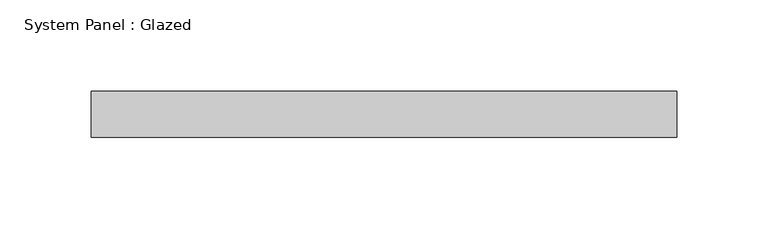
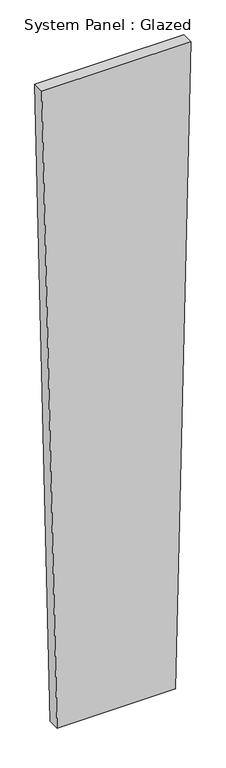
"""IFC4 building model written with IfcOpenShell, lengths in millimetres: plate geometry, System Panel : Glazed."""

import ifcopenshell
import ifcopenshell.guid

model = None  # the IFC model being written
_history = None  # IfcOwnerHistory: only IFC2X3 demands one
_inside = {}  # id of a spatial element -> (the spatial element, [elements in it])
_under = {}  # id of a project, library or spatial element -> (it, [spatial elements below it])
_declared = {}  # id of a project -> (the project, [libraries it declares])
_typed = {}  # id of a type object -> (the type object, [elements of that type])
_made_of = {}  # id of a material, layer set ... -> (it, [elements and type objects made of it])


def new_model(schema):
    """Start an empty IFC model of exactly this schema.

    Asked for "IFC4X3", IfcOpenShell would pick the latest addendum, in which some entities
    have other attributes; the version numbers below select the first issue.
    IFC2X3 requires an IfcOwnerHistory on every rooted entity: one is made here for all.
    """
    global model, _history
    if schema == "IFC4X3":
        model = ifcopenshell.file(schema_version=(4, 3, 0, 0))
    else:
        model = ifcopenshell.file(schema=schema)
    _inside.clear()
    _under.clear()
    _declared.clear()
    _typed.clear()
    _made_of.clear()
    _history = None
    if model.schema == "IFC2X3":
        org = make("IfcOrganization", Name="unknown")
        user = make(
            "IfcPersonAndOrganization",
            ThePerson=make("IfcPerson", FamilyName="unknown"),
            TheOrganization=org,
        )
        app = make(
            "IfcApplication",
            ApplicationDeveloper=org,
            Version="unknown",
            ApplicationFullName="unknown",
            ApplicationIdentifier="unknown",
        )
        _history = make(
            "IfcOwnerHistory",
            OwningUser=user,
            OwningApplication=app,
            ChangeAction="ADDED",
            CreationDate=0,
        )
    return model


def make(cls, **values):
    """One entity of the class cls with the attributes given. An attribute that is None is left unset."""
    return model.create_entity(
        cls, **{name: value for name, value in values.items() if value is not None}
    )


def rooted(cls, **values):
    """An entity with a GlobalId (a new one), such as an element, a storey or a relation."""
    return make(cls, GlobalId=ifcopenshell.guid.new(), OwnerHistory=_history, **values)


def si_unit(unit_type, name, prefix=None):
    """IfcSIUnit, for example si_unit("LENGTHUNIT", "METRE", prefix="MILLI")."""
    return make("IfcSIUnit", UnitType=unit_type, Prefix=prefix, Name=name)


def assignment(units):
    """IfcUnitAssignment: the units of a project."""
    return None if units is None else make("IfcUnitAssignment", Units=units)


def point(xyz):
    """IfcCartesianPoint."""
    return None if xyz is None else make("IfcCartesianPoint", Coordinates=xyz)


def direction(xyz):
    """IfcDirection."""
    return None if xyz is None else make("IfcDirection", DirectionRatios=xyz)


def frame(location, z_axis=None, x_axis=None):
    """IfcAxis2Placement3D, a coordinate frame: its origin and axes. An axis left out is left unset."""
    return make(
        "IfcAxis2Placement3D",
        Location=point(location),
        Axis=direction(z_axis),
        RefDirection=direction(x_axis),
    )


def origin():
    """The frame at (0, 0, 0) with its axes left unset."""
    return frame((0.0, 0.0, 0.0))


def place(relative_to, where):
    """IfcLocalPlacement: puts the frame where relative to a parent placement (None: the world)."""
    return make(
        "IfcLocalPlacement", PlacementRelTo=relative_to, RelativePlacement=where
    )


def context(
    kind, dimensions, precision=None, world=None, true_north=None, identifier=None
):
    """IfcGeometricRepresentationContext, for example the 3D "Model" context."""
    return make(
        "IfcGeometricRepresentationContext",
        ContextIdentifier=identifier,
        ContextType=kind,
        CoordinateSpaceDimension=dimensions,
        Precision=precision,
        WorldCoordinateSystem=world,
        TrueNorth=true_north,
    )


def project(units=None, contexts=None):
    """IfcProject with its units and contexts."""
    return rooted(
        "IfcProject",
        Name="project",
        RepresentationContexts=contexts,
        UnitsInContext=assignment(units),
    )


def spatial(cls, under=None, at=None, **own):
    """A site, building, storey or space (cls), placed at a placement, below another one or the project."""
    s = rooted(cls, ObjectPlacement=at, **own)
    if under is not None:
        _under.setdefault(under.id(), (under, []))[1].append(s)
    return s


def polyline(points):
    """IfcPolyline through the points."""
    return make("IfcPolyline", Points=[point(p) for p in points])


def outline(outer, holes=None, kind="AREA"):
    """IfcArbitraryClosedProfileDef: a profile drawn as a closed curve; with holes, ...WithVoids."""
    if holes is None:
        return make("IfcArbitraryClosedProfileDef", ProfileType=kind, OuterCurve=outer)
    return make(
        "IfcArbitraryProfileDefWithVoids",
        ProfileType=kind,
        OuterCurve=outer,
        InnerCurves=holes,
    )


def extrude(swept, where, along, depth):
    """IfcExtrudedAreaSolid: the profile swept, set in the frame where, extruded along a direction by depth."""
    return make(
        "IfcExtrudedAreaSolid",
        SweptArea=swept,
        Position=where,
        ExtrudedDirection=direction(along),
        Depth=depth,
    )


def shape(context_of_items, identifier, shape_type, items):
    """IfcShapeRepresentation: the items that make up one representation, for example the "Body"."""
    return make(
        "IfcShapeRepresentation",
        ContextOfItems=context_of_items,
        RepresentationIdentifier=identifier,
        RepresentationType=shape_type,
        Items=items,
    )


def source(mapping_origin, context_of_items, identifier, shape_type, items):
    """IfcRepresentationMap: a shape defined once, which mapped items show again and again."""
    return make(
        "IfcRepresentationMap",
        MappingOrigin=mapping_origin,
        MappedRepresentation=shape(context_of_items, identifier, shape_type, items),
    )


def transform(
    local_origin,
    x_axis=None,
    y_axis=None,
    z_axis=None,
    scale=None,
    scale2=None,
    scale3=None,
    uniform=True,
):
    """IfcCartesianTransformationOperator3D, or its non-uniform kind. x_axis, y_axis, z_axis: its Axis1, 2, 3."""
    if uniform:
        return make(
            "IfcCartesianTransformationOperator3D",
            Axis1=direction(x_axis),
            Axis2=direction(y_axis),
            LocalOrigin=point(local_origin),
            Scale=scale,
            Axis3=direction(z_axis),
        )
    return make(
        "IfcCartesianTransformationOperator3DnonUniform",
        Axis1=direction(x_axis),
        Axis2=direction(y_axis),
        LocalOrigin=point(local_origin),
        Scale=scale,
        Axis3=direction(z_axis),
        Scale2=scale2,
        Scale3=scale3,
    )


def mapped(mapping_source, mapping_target):
    """IfcMappedItem: shows the shape of a source again, moved by a transform."""
    return make(
        "IfcMappedItem", MappingSource=mapping_source, MappingTarget=mapping_target
    )


def made_of(thing, what):
    """Note that an element or type object is made of a material, layer set ...; save() writes the relation."""
    if what is not None:
        _made_of.setdefault(what.id(), (what, []))[1].append(thing)
    return thing


def element(
    cls,
    number,
    at=None,
    inside=None,
    cuts=None,
    type_object=None,
    material=None,
    context=None,
    identifier="Body",
    shape_type=None,
    held_by="IfcProductDefinitionShape",
    body=None,
    shapes=None,
    **own,
):
    """One element of the class cls, such as IfcWall. Its Tag is "e" and its number.

    at: its placement. inside: the storey or other place that contains it. cuts: it is an
    opening in that element (IfcRelVoidsElement). A single representation is given by context,
    identifier, shape_type and body (its items); several are given by shapes. held_by: the class
    of the entity that holds the representations. save() writes the other relations.
    """
    e = rooted(cls, Tag="e%d" % number, ObjectPlacement=at, **own)
    if body is not None:
        shapes = [shape(context, identifier, shape_type, body)]
    if shapes is not None:
        e.Representation = make(held_by, Representations=shapes)
    if inside is not None:
        _inside.setdefault(inside.id(), (inside, []))[1].append(e)
    if cuts is not None:
        rooted(
            "IfcRelVoidsElement", RelatingBuildingElement=cuts, RelatedOpeningElement=e
        )
    if type_object is not None:
        _typed.setdefault(type_object.id(), (type_object, []))[1].append(e)
    return made_of(e, material)


def aggregate(whole, parts):
    """IfcRelAggregates: a whole, such as a stair, and the parts it consists of."""
    return rooted("IfcRelAggregates", RelatingObject=whole, RelatedObjects=parts)


def save(model, path):
    """Write the relations noted so far, then the file.

    IfcRelAggregates (storeys below a building ...), IfcRelContainedInSpatialStructure (elements
    in a storey), IfcRelDefinesByType, IfcRelAssociatesMaterial and IfcRelDeclares: one each for
    every whole, place, type object, material and project.
    """
    for whole, parts in _under.values():
        aggregate(whole, parts)
    for where, things in _inside.values():
        rooted(
            "IfcRelContainedInSpatialStructure",
            RelatedElements=things,
            RelatingStructure=where,
        )
    for kind, things in _typed.values():
        rooted("IfcRelDefinesByType", RelatedObjects=things, RelatingType=kind)
    for what, things in _made_of.values():
        rooted("IfcRelAssociatesMaterial", RelatedObjects=things, RelatingMaterial=what)
    for by, libraries in _declared.values():
        rooted("IfcRelDeclares", RelatingContext=by, RelatedDefinitions=libraries)
    model.write(path)


def system_panel_glazed_df0c418a(model_context):
    return source(origin(), model_context, "Body", "SweptSolid", [
        extrude(outline(polyline([(0.0, -127.9634208), (0.0, 127.9634208), (1460.1121076, 160.9128018), (1460.1121076, -160.9128018), (0.0, -127.9634208)])), frame((0.0, 19.05, 0.0), z_axis=(0.0, 1.0, 0.0), x_axis=(0.0, 0.0, 1.0)), (0.0, 0.0, 1.0), 25.4),
    ])


if __name__ == "__main__":
    model = new_model("IFC4")
    model_context = context("Model", 3, world=origin())
    ifc_project = project(units=[si_unit("LENGTHUNIT", "METRE", prefix="MILLI")], contexts=[model_context])
    site = spatial("IfcSite", under=ifc_project)
    building = spatial("IfcBuilding", under=site)
    placement = place(None, origin())
    system_panel_glazed_shape = system_panel_glazed_df0c418a(model_context)
    element("IfcPlate", 1, ObjectType="System Panel : Glazed", at=placement, inside=building, context=model_context, shape_type="MappedRepresentation", body=[
        mapped(system_panel_glazed_shape, transform((0.0, 0.0, 0.0), x_axis=(1.0, 0.0, 0.0), y_axis=(0.0, 1.0, 0.0), z_axis=(0.0, 0.0, 1.0))),
    ])
    save(model, "model.ifc")
